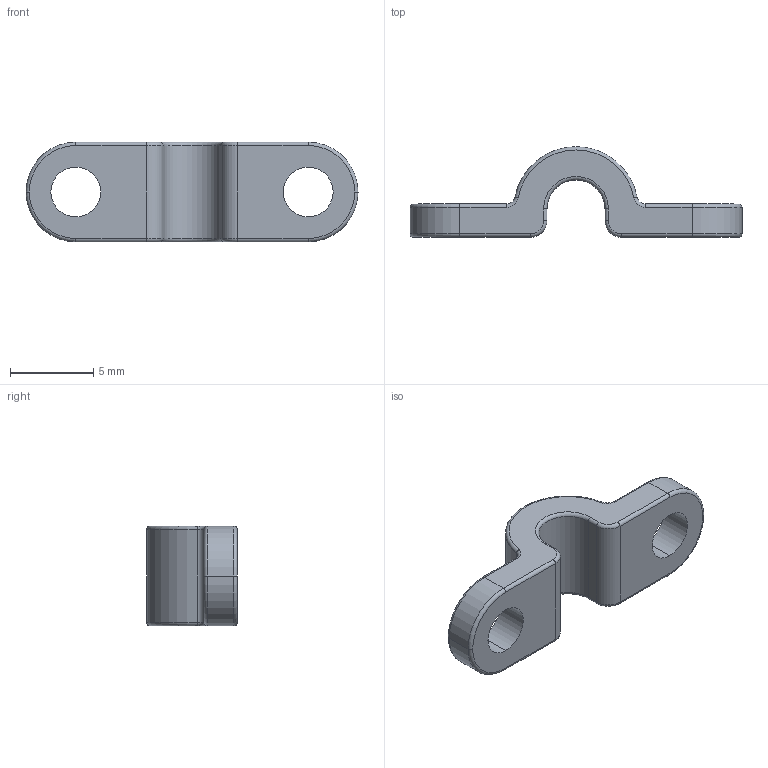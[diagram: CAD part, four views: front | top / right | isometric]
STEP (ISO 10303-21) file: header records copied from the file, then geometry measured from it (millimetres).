
FILE_DESCRIPTION (( 'STEP AP203' ), '1' );
FILE_NAME ('盄縐-籵蚚.STEP', '2025-08-21T06:36:16', ( '' ), ( '' ), 'SwSTEP 2.0', 'SolidWorks 2023', '' );
FILE_SCHEMA (( 'CONFIG_CONTROL_DESIGN' ));
Length unit declared in the file: millimetre
Products named in the file (1): 线卡-通用
Bounding box: 20 x 5.45 x 6 mm (x, y, z)
Volume: 247.7 mm3; surface area: 383.3 mm2
Topology: 1 solids, 1 shells, 54 faces, 124 edges, 72 vertices
Faces by surface type: cylinder 26, torus 20, plane 8
Entity records: 1617 total; most frequent: DIRECTION 314, CARTESIAN_POINT 251, ORIENTED_EDGE 248, AXIS2_PLACEMENT_3D 135, EDGE_CURVE 124, CIRCLE 80, VERTEX_POINT 72, EDGE_LOOP 58
